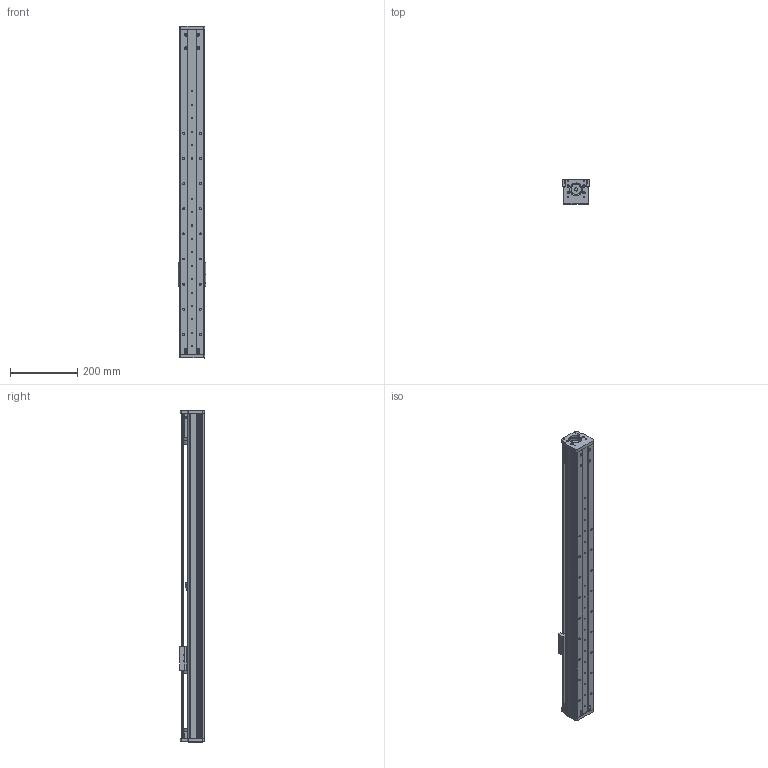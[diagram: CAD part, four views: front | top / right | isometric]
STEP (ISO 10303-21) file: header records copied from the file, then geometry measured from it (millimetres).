
FILE_DESCRIPTION (( 'STEP AP203' ), '1' );
FILE_NAME ('CF75-P750.STEP', '2016-02-22T03:14:29', ( 'Sky123.Org' ), ( 'Sky123.Org' ), 'SwSTEP 2.0', 'SolidWorks 2015', '' );
FILE_SCHEMA (( 'CONFIG_CONTROL_DESIGN' ));
Length unit declared in the file: millimetre
Products named in the file (17): 75盓厥釱; 75裔啣; angular contact ball bearings gb_Rolling bearings S7001 GB 292-94; SFU1616幗紩佪裝; 坶踡蹟譫M12-1; CF75-300俴最臏倰第; 75賑雄啣; MGW12H絳寢-俴最300; CF75-P750; 30-42薊粣ん; MGW12賑輸; 75-57祭輛萇儂假蚾啣; SFU1605-3; 75嘐隅釱; 75粣創裔啣; 75支持侧板（2016.01.24改进）; 75滅袉蝶菜
Assembly tree (20 placements, depth 2):
  CF75-P750
    MGW12賑輸
    SFU1605-3
    75粣創裔啣
    75滅袉蝶菜  x2
    75裔啣
    SFU1616幗紩佪裝
    CF75-300俴最臏倰第
    MGW12H絳寢-俴最300
    30-42薊粣ん
    75-57祭輛萇儂假蚾啣
    75嘐隅釱
    75支持侧板（2016.01.24改进）
    75盓厥釱
    angular contact ball bearings gb_Rolling bearings S7001 GB 292-94  x4
    坶踡蹟譫M12-1
    75賑雄啣
Bounding box: 82.03 x 73.93 x 990.03 mm (x, y, z)
Volume: 2015829.3 mm3; surface area: 738973.5 mm2
Topology: 20 solids, 20 shells, 1541 faces, 4945 edges, 3297 vertices
Faces by surface type: cylinder 709, plane 505, torus 212, sphere 112, bspline 3
Entity records: 54756 total; most frequent: CARTESIAN_POINT 21219, ORIENTED_EDGE 6830, DIRECTION 6539, EDGE_CURVE 3415, AXIS2_PLACEMENT_3D 2516, VERTEX_POINT 2262, EDGE_LOOP 1515, VECTOR 1507
